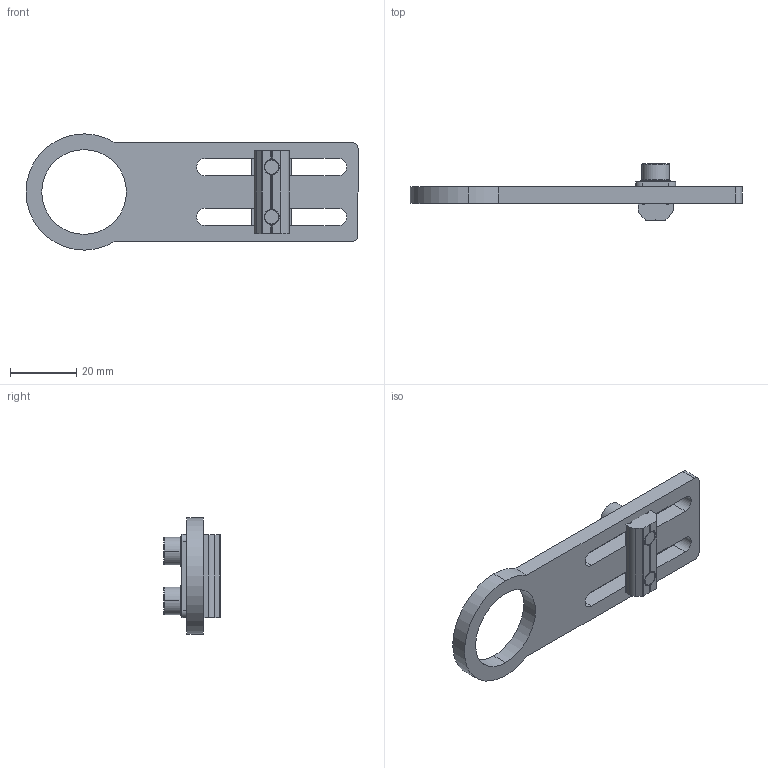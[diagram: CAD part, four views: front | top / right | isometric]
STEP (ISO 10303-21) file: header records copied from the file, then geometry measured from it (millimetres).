
FILE_DESCRIPTION (( 'STEP AP214' ), '1' );
FILE_NAME ('SMBE6-2540T.STEP', '2023-01-10T03:20:35', ( 'Windows User' ), ( 'P R C' ), 'SwSTEP 2.0', 'SolidWorks 2018', '' );
FILE_SCHEMA (( 'AUTOMOTIVE_DESIGN' ));
Length unit declared in the file: millimetre
Products named in the file (1): SMBE6-2540T
Bounding box: 100 x 17 x 35 mm (x, y, z)
Volume: 12461 mm3; surface area: 9420.8 mm2
Topology: 7 solids, 7 shells, 452 faces, 1314 edges, 872 vertices
Faces by surface type: plane 383, cylinder 57, cone 12
Entity records: 20228 total; most frequent: CARTESIAN_POINT 2831, ORIENTED_EDGE 2628, DIRECTION 2626, EDGE_CURVE 1314, AXIS2_PLACEMENT_3D 891, VERTEX_POINT 872, VECTOR 844, LINE 844
